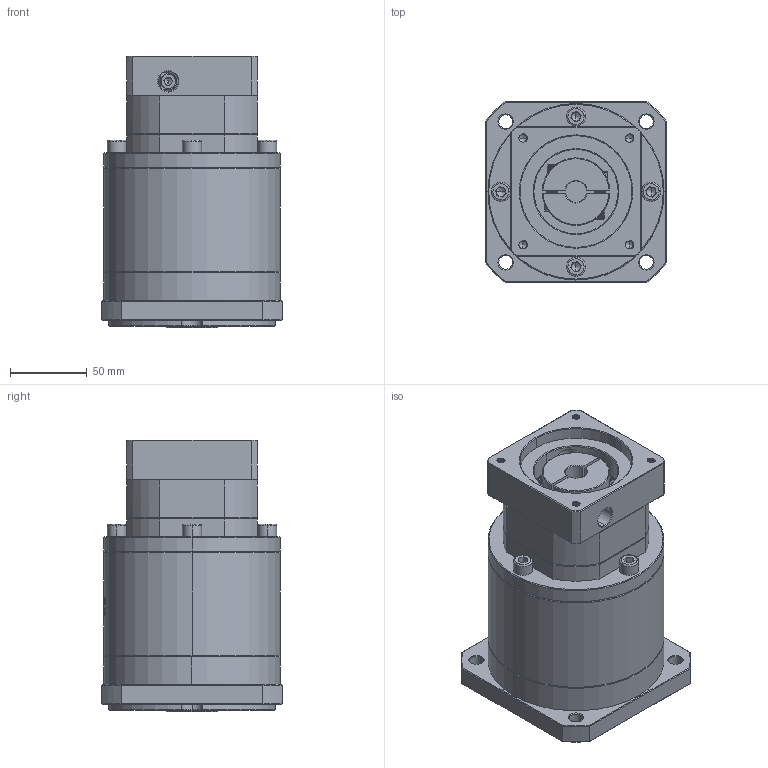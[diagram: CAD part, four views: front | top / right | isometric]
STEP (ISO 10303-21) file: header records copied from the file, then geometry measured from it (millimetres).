
FILE_DESCRIPTION (( 'STEP AP214' ), '1' );
FILE_NAME ('ZF120A-K25-L3-P2-14-73-69.6X69.6-M6.step', '2023-08-27T06:02:55', ( '' ), ( '' ), 'SwSTEP 2.0', 'SolidWorks 2016', '' );
FILE_SCHEMA (( 'AUTOMOTIVE_DESIGN' ));
Length unit declared in the file: millimetre
Products named in the file (1): ZF120A-K25-L3-P2-14-73-69.6X69.6-M6
Bounding box: 118 x 118 x 177.5 mm (x, y, z)
Volume: 1527848.2 mm3; surface area: 136087 mm2
Topology: 5 solids, 6 shells, 2156 faces, 5738 edges, 3681 vertices
Faces by surface type: plane 1053, bspline 410, cylinder 369, cone 309, torus 15
Entity records: 115718 total; most frequent: CARTESIAN_POINT 43567, ORIENTED_EDGE 11420, DIRECTION 8263, EDGE_CURVE 5710, VERTEX_POINT 3681, LINE 3039, VECTOR 3039, AXIS2_PLACEMENT_3D 2612
